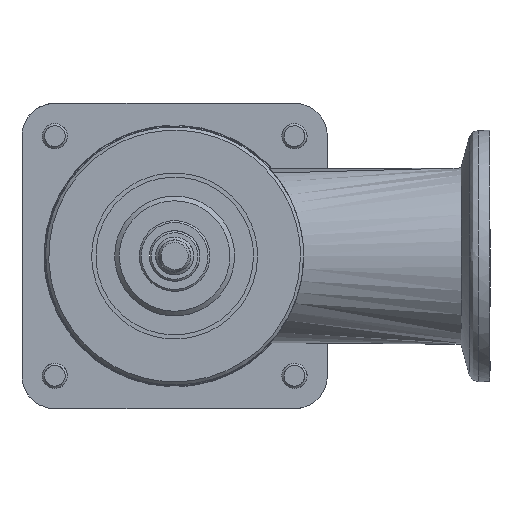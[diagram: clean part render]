
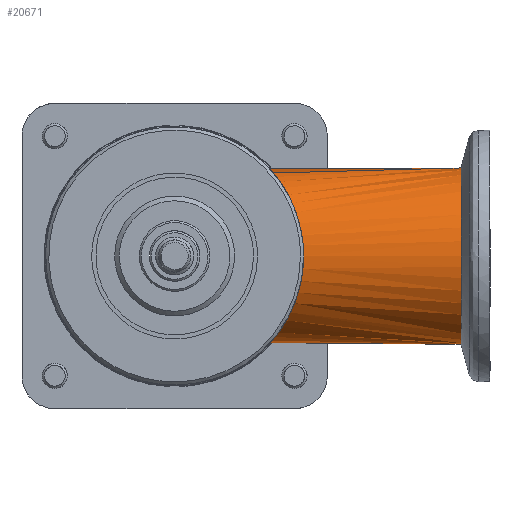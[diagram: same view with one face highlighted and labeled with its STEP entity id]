
A CAD part, front view. The second image highlights one B-rep face of the part: STEP entity #20671.
In plain terms, the highlighted free-form (B-spline) face has degree [2, 1] with [7, 2] control points.
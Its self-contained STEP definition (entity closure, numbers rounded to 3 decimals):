
#20566=CARTESIAN_POINT('V3',(4.594,14.0,0.0));
#20567=VERTEX_POINT('V3',#20566);
#20573=CARTESIAN_POINT('E5',(4.594,14.0,0.0));
#20574=CARTESIAN_POINT('E5',(4.594,14.0,
   24.249));
#20575=CARTESIAN_POINT('E5',(4.594,-7.,
   12.124));
#20576=CARTESIAN_POINT('E5',(4.594,-28.,
   0.));
#20577=CARTESIAN_POINT('E5',(4.594,-7.,
   -12.124));
#20578=CARTESIAN_POINT('E5',(4.594,14.,
   -24.249));
#20579=CARTESIAN_POINT('E5',(4.594,14.0,0.0));
#20587=(BOUNDED_CURVE()B_SPLINE_CURVE(2,(#20573,#20574,#20575,
   #20576,#20577,#20578,#20579),.CIRCULAR_ARC.,.T.,.U.)
   B_SPLINE_CURVE_WITH_KNOTS((3,2,2,3),(0.0,1.117,
   2.235,3.352),.UNSPECIFIED.)CURVE()
   GEOMETRIC_REPRESENTATION_ITEM()RATIONAL_B_SPLINE_CURVE((1.0,
   0.5,1.0,0.5,1.0,0.5,1.0)
   )REPRESENTATION_ITEM('E5'));
#20588=EDGE_CURVE('E5',#20567,#20567,#20587,.T.);
#20595=CARTESIAN_POINT('F7',(4.594,14.0,0.0));
#20596=CARTESIAN_POINT('F7',(4.594,14.0,
   24.249));
#20597=CARTESIAN_POINT('F7',(4.594,-7.,
   12.124));
#20598=CARTESIAN_POINT('F7',(4.594,-28.,
   0.));
#20599=CARTESIAN_POINT('F7',(4.594,-7.,
   -12.124));
#20600=CARTESIAN_POINT('F7',(4.594,14.,
   -24.249));
#20601=CARTESIAN_POINT('F7',(4.594,14.0,0.0));
#20602=CARTESIAN_POINT('F7',(36.094,14.,
   0.0));
#20603=CARTESIAN_POINT('F7',(36.094,14.,
   24.249));
#20604=CARTESIAN_POINT('F7',(36.094,-7.,
   12.124));
#20605=CARTESIAN_POINT('F7',(36.094,-28.,
   0.));
#20606=CARTESIAN_POINT('F7',(36.094,-7.,
   -12.124));
#20607=CARTESIAN_POINT('F7',(36.094,14.,
   -24.249));
#20608=CARTESIAN_POINT('F7',(36.094,14.,
   0.0));
#20616=(BOUNDED_SURFACE()B_SPLINE_SURFACE(2,1,((#20595,#20602),(
   #20596,#20603),(#20597,#20604),(#20598,#20605),(#20599,
   #20606),(#20600,#20607),(#20601,#20608)),.CYLINDRICAL_SURF.,
   .T.,.F.,.U.)B_SPLINE_SURFACE_WITH_KNOTS((3,2,2,3),(2,2),(0.0,
   1.117,2.235,3.352),(0.0,
   0.726),.UNSPECIFIED.)GEOMETRIC_REPRESENTATION_ITEM()
   RATIONAL_B_SPLINE_SURFACE(((1.0,1.0),(0.5,
   0.5),(1.0,1.0),(0.5,
   0.5),(1.0,1.0),(0.5,
   0.5),(1.0,1.0)))REPRESENTATION_ITEM('F7')SURFACE()
   );
#20617=CARTESIAN_POINT('V8',(29.55,14.,
   0.0));
#20618=VERTEX_POINT('V8',#20617);
#20619=CARTESIAN_POINT('E12',(29.55,14.,
   0.0));
#20620=CARTESIAN_POINT('E12',(29.55,14.,
   -0.825));
#20621=CARTESIAN_POINT('E12',(29.6,13.927,
   -1.645));
#20622=CARTESIAN_POINT('E12',(29.828,13.592,
   -3.531));
#20623=CARTESIAN_POINT('E12',(30.041,13.276,
   -4.569));
#20624=CARTESIAN_POINT('E12',(30.814,12.093,
   -7.309));
#20625=CARTESIAN_POINT('E12',(31.484,11.028,
   -8.786));
#20626=CARTESIAN_POINT('E12',(33.134,8.032,
   -11.742));
#20627=CARTESIAN_POINT('E12',(34.179,5.798,
   -12.983));
#20628=CARTESIAN_POINT('E12',(34.946,2.34,
   -13.845));
#20629=CARTESIAN_POINT('E12',(35.081,1.262,
   -13.986));
#20630=CARTESIAN_POINT('E12',(35.104,-0.931,
   -14.012));
#20631=CARTESIAN_POINT('E12',(34.995,-2.001,
   -13.898));
#20632=CARTESIAN_POINT('E12',(34.582,-4.064,
   -13.438));
#20633=CARTESIAN_POINT('E12',(34.29,-5.029,
   -13.103));
#20634=CARTESIAN_POINT('E12',(33.376,-7.503,
   -11.947));
#20635=CARTESIAN_POINT('E12',(32.63,-8.978,
   -10.899));
#20636=CARTESIAN_POINT('E12',(31.146,-11.599,
   -8.091));
#20637=CARTESIAN_POINT('E12',(30.367,-12.787,
   -6.185));
#20638=CARTESIAN_POINT('E12',(29.658,-13.845,
   -2.515));
#20639=CARTESIAN_POINT('E12',(29.528,-14.032,
   -1.093));
#20640=CARTESIAN_POINT('E12',(29.575,-13.964,
   1.629));
#20641=CARTESIAN_POINT('E12',(29.717,-13.757,
   2.885));
#20642=CARTESIAN_POINT('E12',(30.184,-13.059,
   5.173));
#20643=CARTESIAN_POINT('E12',(30.485,-12.602,
   6.197));
#20644=CARTESIAN_POINT('E12',(31.726,-10.627,
   9.525));
#20645=CARTESIAN_POINT('E12',(32.89,-8.631,
   11.29));
#20646=CARTESIAN_POINT('E12',(34.402,-4.832,
   13.268));
#20647=CARTESIAN_POINT('E12',(34.994,-2.834,
   13.894));
#20648=CARTESIAN_POINT('E12',(35.124,0.498,
   14.033));
#20649=CARTESIAN_POINT('E12',(35.047,1.563,
   13.953));
#20650=CARTESIAN_POINT('E12',(34.687,3.654,
   13.556));
#20651=CARTESIAN_POINT('E12',(34.412,4.638,
   13.247));
#20652=CARTESIAN_POINT('E12',(33.283,7.874,
   11.85));
#20653=CARTESIAN_POINT('E12',(32.076,10.03,
   10.165));
#20654=CARTESIAN_POINT('E12',(30.503,12.592,
   6.369));
#20655=CARTESIAN_POINT('E12',(29.942,13.423,
   4.536));
#20656=CARTESIAN_POINT('E12',(29.597,13.931,
   1.601));
#20657=CARTESIAN_POINT('E12',(29.55,14.,
   0.803));
#20658=CARTESIAN_POINT('E12',(29.55,14.,
   0.0));
#20659=B_SPLINE_CURVE_WITH_KNOTS('E12',3,(#20619,#20620,#20621,
   #20622,#20623,#20624,#20625,#20626,#20627,#20628,#20629,#20630,
   #20631,#20632,#20633,#20634,#20635,#20636,#20637,#20638,#20639,
   #20640,#20641,#20642,#20643,#20644,#20645,#20646,#20647,#20648,
   #20649,#20650,#20651,#20652,#20653,#20654,#20655,#20656,#20657,
   #20658),.UNSPECIFIED.,.T.,.U.,(4,2,2,2,2,2,2,2,2,2,2,2,2,2,2,2,2,
   2,2,4),(0.0,0.027,0.063,
   0.127,0.223,0.265,
   0.307,0.347,0.418,
   0.495,0.54,0.58,
   0.617,0.708,0.777,
   0.811,0.844,0.928,
   0.981,1.0),.UNSPECIFIED.);
#20660=EDGE_CURVE('E12',#20618,#20618,#20659,.T.);
#20661=ORIENTED_EDGE('E12',*,*,#20660,.F.);
#20662=CARTESIAN_POINT('E13',(29.55,14.,
   0.0));
#20663=CARTESIAN_POINT('E13',(4.594,14.0,0.0));
#20664=B_SPLINE_CURVE_WITH_KNOTS('E13',1,(#20662,#20663),
   .POLYLINE_FORM.,.F.,.U.,(2,2),(0.425,1.0),
   .UNSPECIFIED.);
#20665=EDGE_CURVE('E13',#20618,#20567,#20664,.T.);
#20666=ORIENTED_EDGE('E13',*,*,#20665,.T.);
#20667=ORIENTED_EDGE('E5',*,*,#20588,.F.);
#20668=ORIENTED_EDGE('E13',*,*,#20665,.F.);
#20669=EDGE_LOOP('F7',(#20661,#20666,#20667,#20668));
#20670=FACE_OUTER_BOUND('F7',#20669,.F.);
#20671=ADVANCED_FACE('F7',(#20670),#20616,.T.);
